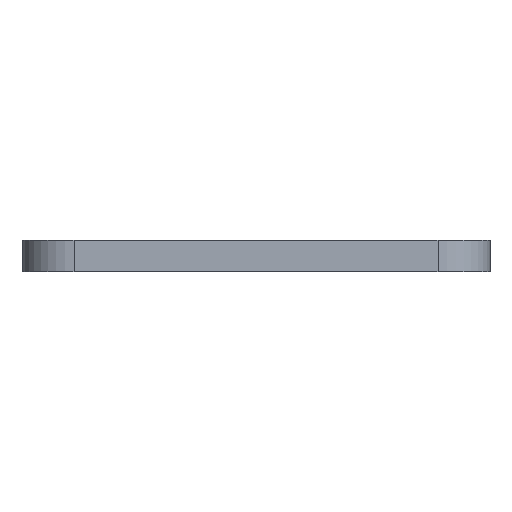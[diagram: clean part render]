
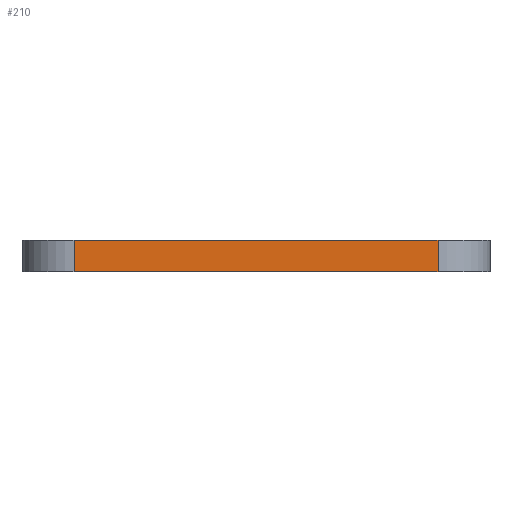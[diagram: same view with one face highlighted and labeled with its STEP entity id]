
A CAD part, front view. The second image highlights one B-rep face of the part: STEP entity #210.
In plain terms, the highlighted planar face has unit normal (0, -1, 0).
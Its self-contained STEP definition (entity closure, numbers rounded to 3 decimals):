
#188 = VERTEX_POINT ( 'NONE', #589 ) ;
#191 = EDGE_CURVE ( 'NONE', #259, #188, #578, .T. ) ;
#196 = EDGE_CURVE ( 'NONE', #188, #207, #624, .T. ) ;
#197 = ORIENTED_EDGE ( 'NONE', *, *, #196, .T. ) ;
#198 = ORIENTED_EDGE ( 'NONE', *, *, #191, .T. ) ;
#201 = ORIENTED_EDGE ( 'NONE', *, *, #217, .T. ) ;
#203 = ORIENTED_EDGE ( 'NONE', *, *, #212, .F. ) ;
#204 = EDGE_LOOP ( 'NONE', ( #203, #201, #198, #197 ) ) ;
#205 = VERTEX_POINT ( 'NONE', #575 ) ;
#207 = VERTEX_POINT ( 'NONE', #629 ) ;
#210 = ADVANCED_FACE ( 'NONE', ( #622 ), #606, .T. ) ;
#212 = EDGE_CURVE ( 'NONE', #205, #207, #664, .T. ) ;
#217 = EDGE_CURVE ( 'NONE', #205, #259, #613, .T. ) ;
#259 = VERTEX_POINT ( 'NONE', #720 ) ;
#575 = CARTESIAN_POINT ( 'NONE',  ( -80., 0., 0. ) ) ;
#576 = DIRECTION ( 'NONE',  ( 1., 0., 0. ) ) ;
#577 = CARTESIAN_POINT ( 'NONE',  ( 0., 0., -6. ) ) ;
#578 = LINE ( 'NONE', #577, #632 ) ;
#589 = CARTESIAN_POINT ( 'NONE',  ( -10., 0., -6. ) ) ;
#606 = PLANE ( 'NONE',  #609 ) ;
#609 = AXIS2_PLACEMENT_3D ( 'NONE', #618, #631, #666 ) ;
#613 = LINE ( 'NONE', #653, #652 ) ;
#618 = CARTESIAN_POINT ( 'NONE',  ( 0., 0., -6. ) ) ;
#619 = DIRECTION ( 'NONE',  ( 0., 0., 1. ) ) ;
#620 = VECTOR ( 'NONE', #619, 1000. ) ;
#621 = CARTESIAN_POINT ( 'NONE',  ( -10., 0., -6. ) ) ;
#622 = FACE_OUTER_BOUND ( 'NONE', #204, .T. ) ;
#624 = LINE ( 'NONE', #621, #620 ) ;
#629 = CARTESIAN_POINT ( 'NONE',  ( -10., 0., 0. ) ) ;
#631 = DIRECTION ( 'NONE',  ( 0., -1., 0. ) ) ;
#632 = VECTOR ( 'NONE', #576, 1000. ) ;
#651 = DIRECTION ( 'NONE',  ( 0., 0., -1. ) ) ;
#652 = VECTOR ( 'NONE', #651, 1000. ) ;
#653 = CARTESIAN_POINT ( 'NONE',  ( -80., 0., -6. ) ) ;
#661 = DIRECTION ( 'NONE',  ( 1., 0., 0. ) ) ;
#662 = VECTOR ( 'NONE', #661, 1000. ) ;
#663 = CARTESIAN_POINT ( 'NONE',  ( 0., 0., 0. ) ) ;
#664 = LINE ( 'NONE', #663, #662 ) ;
#666 = DIRECTION ( 'NONE',  ( 0., 0., -1. ) ) ;
#720 = CARTESIAN_POINT ( 'NONE',  ( -80., 0., -6. ) ) ;
